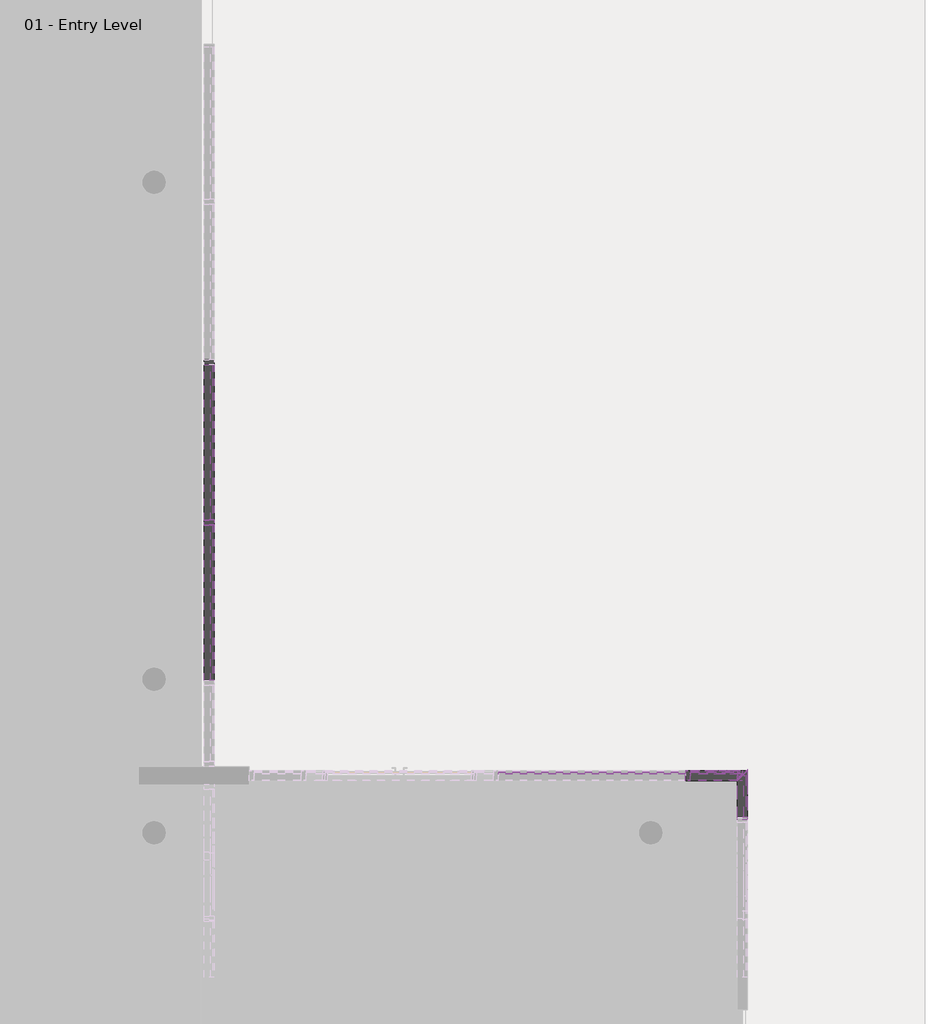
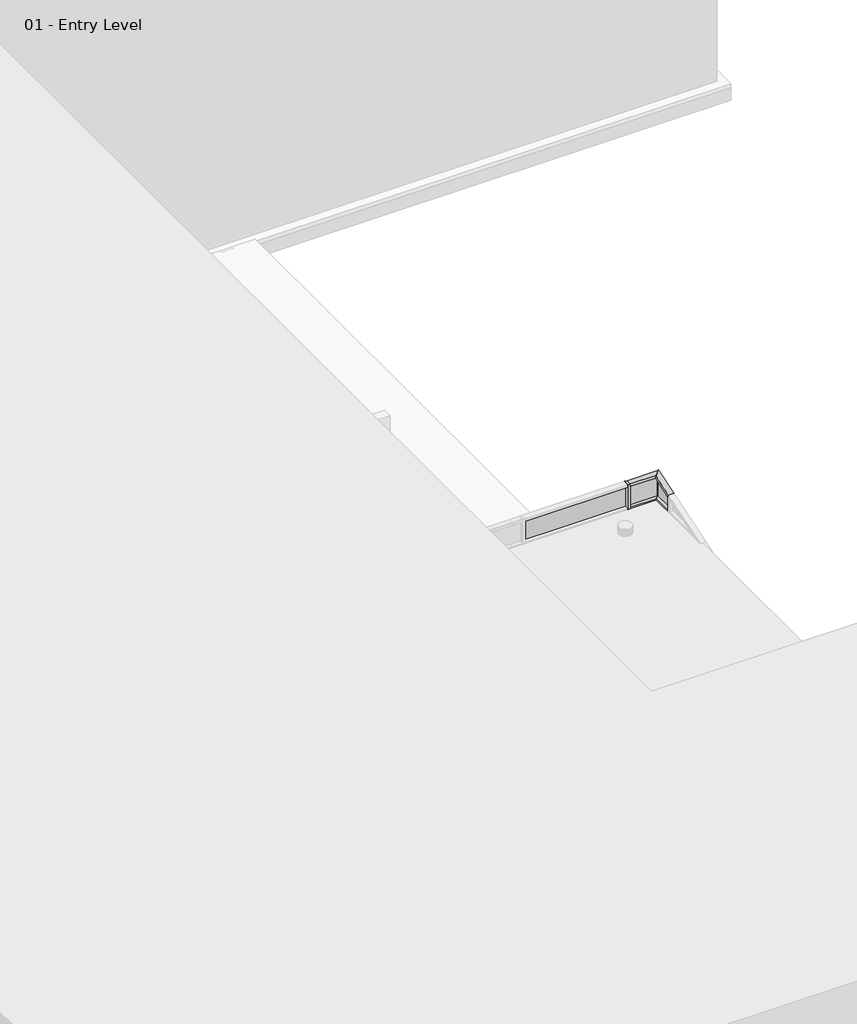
# One storey, part 17 of 35: 76 members, 50 plates.
"""IFC4 building model written with IfcOpenShell, lengths in millimetres."""

from ifc_helpers import new_model, si_unit, origin, place, context, project, spatial, transform, mapped, element, save
from components import member_2b49869a, member_391b434c, member_9e90ae50, member_6e77e263, member_b2bde9e6, member_b5354135, member_1e5b0a81, member_55448455, member_0dd9e943, member_29c8c3b8, member_f6b3c571, member_bb554449, member_5d67b9fc, member_3f1e2ae8, member_80bb9b3a, member_83c59054, system_panel_glazed_1b9d6098, system_panel_glazed_70da479d, system_panel_glazed_1068a10c, system_panel_glazed_a178916c, system_panel_glazed_ee7bb25c, system_panel_glazed_b5016a42, system_panel_glazed_300f1d59, system_panel_glazed_afefc162, system_panel_glazed_fbdf944e, system_panel_glazed_78103c7b

model = new_model("IFC4")

# Units and contexts
model_context = context("Model", 3, world=origin())
ifc_project = project(units=[si_unit("LENGTHUNIT", "METRE", prefix="MILLI")], contexts=[model_context])

# Site, building, storey
site = spatial("IfcSite", under=ifc_project)
building = spatial("IfcBuilding", under=site)
storey = spatial("IfcBuildingStorey", under=building, Name="01 - Entry Level", Elevation=0.0)

# Members
placement = place(None, origin())
member_shape = member_2b49869a(model_context)
element("IfcMember", 1, ObjectType="Rectangular Mullion : 2.5\" x 5\" rectangular", at=placement, inside=storey, context=model_context, shape_type="MappedRepresentation", body=[
    mapped(member_shape, transform((17184.0207476, 25752.35, 9753.6), x_axis=(0.0, 1.0, 0.0), y_axis=(1.0, 0.0, 0.0), z_axis=(0.0, 0.0, -1.0))),
])
member_2_shape = member_391b434c(model_context)
element("IfcMember", 2, ObjectType="Rectangular Mullion : 2.5\" x 5\" rectangular", at=placement, inside=storey, context=model_context, shape_type="MappedRepresentation", body=[
    mapped(member_2_shape, transform((17184.0207476, 25720.6, 10972.8), x_axis=(0.0, 0.0, 1.0), y_axis=(1.0, 0.0, 0.0), z_axis=(0.0, 1.0, 0.0))),
])
element("IfcMember", 3, ObjectType="Rectangular Mullion : 2.5\" x 5\" rectangular", at=placement, inside=storey, context=model_context, shape_type="MappedRepresentation", body=[
    mapped(member_2_shape, transform((17184.0207476, 27752.6, 10972.8), x_axis=(0.0, 0.0, 1.0), y_axis=(1.0, 0.0, 0.0), z_axis=(0.0, 1.0, 0.0))),
])
element("IfcMember", 4, ObjectType="Rectangular Mullion : 2.5\" x 5\" rectangular", at=placement, inside=storey, context=model_context, shape_type="MappedRepresentation", body=[
    mapped(member_2_shape, transform((17184.0207476, 25784.1, 0.0), x_axis=(0.0, 0.0, -1.0), y_axis=(1.0, 0.0, 0.0), z_axis=(0.0, -1.0, 0.0))),
])
element("IfcMember", 5, ObjectType="Rectangular Mullion : 2.5\" x 5\" rectangular", at=placement, inside=storey, context=model_context, shape_type="MappedRepresentation", body=[
    mapped(member_2_shape, transform((17184.0207476, 27816.1, 0.0), x_axis=(0.0, 0.0, -1.0), y_axis=(1.0, 0.0, 0.0), z_axis=(0.0, -1.0, 0.0))),
])
member_3_shape = member_9e90ae50(model_context)
element("IfcMember", 6, ObjectType="Rectangular Mullion : 2.5\" x 5\" rectangular", at=placement, inside=storey, context=model_context, shape_type="MappedRepresentation", body=[
    mapped(member_3_shape, transform((17184.0207476, 25720.6, 1219.2), x_axis=(0.0, 0.0, 1.0), y_axis=(1.0, 0.0, 0.0), z_axis=(0.0, 1.0, 0.0))),
])
element("IfcMember", 7, ObjectType="Rectangular Mullion : 2.5\" x 5\" rectangular", at=placement, inside=storey, context=model_context, shape_type="MappedRepresentation", body=[
    mapped(member_3_shape, transform((17184.0207476, 27752.6, 1219.2), x_axis=(0.0, 0.0, 1.0), y_axis=(1.0, 0.0, 0.0), z_axis=(0.0, 1.0, 0.0))),
])
element("IfcMember", 8, ObjectType="Rectangular Mullion : 2.5\" x 5\" rectangular", at=placement, inside=storey, context=model_context, shape_type="MappedRepresentation", body=[
    mapped(member_3_shape, transform((17184.0207476, 25720.6, 2438.4), x_axis=(0.0, 0.0, 1.0), y_axis=(1.0, 0.0, 0.0), z_axis=(0.0, 1.0, 0.0))),
])
element("IfcMember", 9, ObjectType="Rectangular Mullion : 2.5\" x 5\" rectangular", at=placement, inside=storey, context=model_context, shape_type="MappedRepresentation", body=[
    mapped(member_3_shape, transform((17184.0207476, 27752.6, 2438.4), x_axis=(0.0, 0.0, 1.0), y_axis=(1.0, 0.0, 0.0), z_axis=(0.0, 1.0, 0.0))),
])
element("IfcMember", 10, ObjectType="Rectangular Mullion : 2.5\" x 5\" rectangular", at=placement, inside=storey, context=model_context, shape_type="MappedRepresentation", body=[
    mapped(member_3_shape, transform((17184.0207476, 25720.6, 3657.6), x_axis=(0.0, 0.0, 1.0), y_axis=(1.0, 0.0, 0.0), z_axis=(0.0, 1.0, 0.0))),
])
element("IfcMember", 11, ObjectType="Rectangular Mullion : 2.5\" x 5\" rectangular", at=placement, inside=storey, context=model_context, shape_type="MappedRepresentation", body=[
    mapped(member_3_shape, transform((17184.0207476, 27752.6, 3657.6), x_axis=(0.0, 0.0, 1.0), y_axis=(1.0, 0.0, 0.0), z_axis=(0.0, 1.0, 0.0))),
])
element("IfcMember", 12, ObjectType="Rectangular Mullion : 2.5\" x 5\" rectangular", at=placement, inside=storey, context=model_context, shape_type="MappedRepresentation", body=[
    mapped(member_3_shape, transform((17184.0207476, 25720.6, 4876.8), x_axis=(0.0, 0.0, 1.0), y_axis=(1.0, 0.0, 0.0), z_axis=(0.0, 1.0, 0.0))),
])
element("IfcMember", 13, ObjectType="Rectangular Mullion : 2.5\" x 5\" rectangular", at=placement, inside=storey, context=model_context, shape_type="MappedRepresentation", body=[
    mapped(member_3_shape, transform((17184.0207476, 27752.6, 4876.8), x_axis=(0.0, 0.0, 1.0), y_axis=(1.0, 0.0, 0.0), z_axis=(0.0, 1.0, 0.0))),
])
element("IfcMember", 14, ObjectType="Rectangular Mullion : 2.5\" x 5\" rectangular", at=placement, inside=storey, context=model_context, shape_type="MappedRepresentation", body=[
    mapped(member_3_shape, transform((17184.0207476, 25720.6, 6096.0), x_axis=(0.0, 0.0, 1.0), y_axis=(1.0, 0.0, 0.0), z_axis=(0.0, 1.0, 0.0))),
])
element("IfcMember", 15, ObjectType="Rectangular Mullion : 2.5\" x 5\" rectangular", at=placement, inside=storey, context=model_context, shape_type="MappedRepresentation", body=[
    mapped(member_3_shape, transform((17184.0207476, 27752.6, 6096.0), x_axis=(0.0, 0.0, 1.0), y_axis=(1.0, 0.0, 0.0), z_axis=(0.0, 1.0, 0.0))),
])
element("IfcMember", 16, ObjectType="Rectangular Mullion : 2.5\" x 5\" rectangular", at=placement, inside=storey, context=model_context, shape_type="MappedRepresentation", body=[
    mapped(member_3_shape, transform((17184.0207476, 25720.6, 7315.2), x_axis=(0.0, 0.0, 1.0), y_axis=(1.0, 0.0, 0.0), z_axis=(0.0, 1.0, 0.0))),
])
element("IfcMember", 17, ObjectType="Rectangular Mullion : 2.5\" x 5\" rectangular", at=placement, inside=storey, context=model_context, shape_type="MappedRepresentation", body=[
    mapped(member_3_shape, transform((17184.0207476, 27752.6, 7315.2), x_axis=(0.0, 0.0, 1.0), y_axis=(1.0, 0.0, 0.0), z_axis=(0.0, 1.0, 0.0))),
])
element("IfcMember", 18, ObjectType="Rectangular Mullion : 2.5\" x 5\" rectangular", at=placement, inside=storey, context=model_context, shape_type="MappedRepresentation", body=[
    mapped(member_3_shape, transform((17184.0207476, 25720.6, 8534.4), x_axis=(0.0, 0.0, 1.0), y_axis=(1.0, 0.0, 0.0), z_axis=(0.0, 1.0, 0.0))),
])
element("IfcMember", 19, ObjectType="Rectangular Mullion : 2.5\" x 5\" rectangular", at=placement, inside=storey, context=model_context, shape_type="MappedRepresentation", body=[
    mapped(member_3_shape, transform((17184.0207476, 27752.6, 8534.4), x_axis=(0.0, 0.0, 1.0), y_axis=(1.0, 0.0, 0.0), z_axis=(0.0, 1.0, 0.0))),
])
element("IfcMember", 20, ObjectType="Rectangular Mullion : 2.5\" x 5\" rectangular", at=placement, inside=storey, context=model_context, shape_type="MappedRepresentation", body=[
    mapped(member_3_shape, transform((17184.0207476, 25720.6, 9753.6), x_axis=(0.0, 0.0, 1.0), y_axis=(1.0, 0.0, 0.0), z_axis=(0.0, 1.0, 0.0))),
])
element("IfcMember", 21, ObjectType="Rectangular Mullion : 2.5\" x 5\" rectangular", at=placement, inside=storey, context=model_context, shape_type="MappedRepresentation", body=[
    mapped(member_3_shape, transform((17184.0207476, 27752.6, 9753.6), x_axis=(0.0, 0.0, 1.0), y_axis=(1.0, 0.0, 0.0), z_axis=(0.0, 1.0, 0.0))),
])
element("IfcMember", 22, ObjectType="Rectangular Mullion : 2.5\" x 5\" rectangular", at=placement, inside=storey, context=model_context, shape_type="MappedRepresentation", body=[
    mapped(member_shape, transform((17184.0207476, 25752.35, 0.0), x_axis=(0.0, 1.0, 0.0), y_axis=(1.0, 0.0, 0.0), z_axis=(0.0, 0.0, -1.0))),
])
element("IfcMember", 23, ObjectType="Rectangular Mullion : 2.5\" x 5\" rectangular", at=placement, inside=storey, context=model_context, shape_type="MappedRepresentation", body=[
    mapped(member_shape, transform((17184.0207476, 27784.35, 0.0), x_axis=(0.0, 1.0, 0.0), y_axis=(1.0, 0.0, 0.0), z_axis=(0.0, 0.0, -1.0))),
])
element("IfcMember", 24, ObjectType="Rectangular Mullion : 2.5\" x 5\" rectangular", at=placement, inside=storey, context=model_context, shape_type="MappedRepresentation", body=[
    mapped(member_shape, transform((17184.0207476, 25752.35, 1219.2), x_axis=(0.0, 1.0, 0.0), y_axis=(1.0, 0.0, 0.0), z_axis=(0.0, 0.0, -1.0))),
])
element("IfcMember", 25, ObjectType="Rectangular Mullion : 2.5\" x 5\" rectangular", at=placement, inside=storey, context=model_context, shape_type="MappedRepresentation", body=[
    mapped(member_shape, transform((17184.0207476, 27784.35, 1219.2), x_axis=(0.0, 1.0, 0.0), y_axis=(1.0, 0.0, 0.0), z_axis=(0.0, 0.0, -1.0))),
])
element("IfcMember", 26, ObjectType="Rectangular Mullion : 2.5\" x 5\" rectangular", at=placement, inside=storey, context=model_context, shape_type="MappedRepresentation", body=[
    mapped(member_shape, transform((17184.0207476, 25752.35, 2438.4), x_axis=(0.0, 1.0, 0.0), y_axis=(1.0, 0.0, 0.0), z_axis=(0.0, 0.0, -1.0))),
])
element("IfcMember", 27, ObjectType="Rectangular Mullion : 2.5\" x 5\" rectangular", at=placement, inside=storey, context=model_context, shape_type="MappedRepresentation", body=[
    mapped(member_shape, transform((17184.0207476, 27784.35, 2438.4), x_axis=(0.0, 1.0, 0.0), y_axis=(1.0, 0.0, 0.0), z_axis=(0.0, 0.0, -1.0))),
])
element("IfcMember", 28, ObjectType="Rectangular Mullion : 2.5\" x 5\" rectangular", at=placement, inside=storey, context=model_context, shape_type="MappedRepresentation", body=[
    mapped(member_shape, transform((17184.0207476, 25752.35, 3657.6), x_axis=(0.0, 1.0, 0.0), y_axis=(1.0, 0.0, 0.0), z_axis=(0.0, 0.0, -1.0))),
])
element("IfcMember", 29, ObjectType="Rectangular Mullion : 2.5\" x 5\" rectangular", at=placement, inside=storey, context=model_context, shape_type="MappedRepresentation", body=[
    mapped(member_shape, transform((17184.0207476, 27784.35, 3657.6), x_axis=(0.0, 1.0, 0.0), y_axis=(1.0, 0.0, 0.0), z_axis=(0.0, 0.0, -1.0))),
])
element("IfcMember", 30, ObjectType="Rectangular Mullion : 2.5\" x 5\" rectangular", at=placement, inside=storey, context=model_context, shape_type="MappedRepresentation", body=[
    mapped(member_shape, transform((17184.0207476, 25752.35, 4876.8), x_axis=(0.0, 1.0, 0.0), y_axis=(1.0, 0.0, 0.0), z_axis=(0.0, 0.0, -1.0))),
])
element("IfcMember", 31, ObjectType="Rectangular Mullion : 2.5\" x 5\" rectangular", at=placement, inside=storey, context=model_context, shape_type="MappedRepresentation", body=[
    mapped(member_shape, transform((17184.0207476, 27784.35, 4876.8), x_axis=(0.0, 1.0, 0.0), y_axis=(1.0, 0.0, 0.0), z_axis=(0.0, 0.0, -1.0))),
])
element("IfcMember", 32, ObjectType="Rectangular Mullion : 2.5\" x 5\" rectangular", at=placement, inside=storey, context=model_context, shape_type="MappedRepresentation", body=[
    mapped(member_shape, transform((17184.0207476, 25752.35, 6096.0), x_axis=(0.0, 1.0, 0.0), y_axis=(1.0, 0.0, 0.0), z_axis=(0.0, 0.0, -1.0))),
])
element("IfcMember", 33, ObjectType="Rectangular Mullion : 2.5\" x 5\" rectangular", at=placement, inside=storey, context=model_context, shape_type="MappedRepresentation", body=[
    mapped(member_shape, transform((17184.0207476, 27784.35, 6096.0), x_axis=(0.0, 1.0, 0.0), y_axis=(1.0, 0.0, 0.0), z_axis=(0.0, 0.0, -1.0))),
])
element("IfcMember", 34, ObjectType="Rectangular Mullion : 2.5\" x 5\" rectangular", at=placement, inside=storey, context=model_context, shape_type="MappedRepresentation", body=[
    mapped(member_shape, transform((17184.0207476, 25752.35, 7315.2), x_axis=(0.0, 1.0, 0.0), y_axis=(1.0, 0.0, 0.0), z_axis=(0.0, 0.0, -1.0))),
])
element("IfcMember", 35, ObjectType="Rectangular Mullion : 2.5\" x 5\" rectangular", at=placement, inside=storey, context=model_context, shape_type="MappedRepresentation", body=[
    mapped(member_shape, transform((17184.0207476, 25752.35, 8534.4), x_axis=(0.0, 1.0, 0.0), y_axis=(1.0, 0.0, 0.0), z_axis=(0.0, 0.0, -1.0))),
])
member_4_shape = member_6e77e263(model_context)
element("IfcMember", 36, ObjectType="Rectangular Mullion : 2.5\" x 5\" rectangular", at=placement, inside=storey, context=model_context, shape_type="MappedRepresentation", body=[
    mapped(member_4_shape, transform((23256.3615197, 22545.6, 0.0), x_axis=(-1.0, 0.0, 0.0), y_axis=(0.0, 1.0, 0.0), z_axis=(0.0, 0.0, -1.0))),
])
element("IfcMember", 37, ObjectType="Rectangular Mullion : 2.5\" x 5\" rectangular", at=placement, inside=storey, context=model_context, shape_type="MappedRepresentation", body=[
    mapped(member_4_shape, transform((23256.3615197, 22545.6, 609.6), x_axis=(-1.0, 0.0, 0.0), y_axis=(0.0, 1.0, 0.0), z_axis=(0.0, 0.0, -1.0))),
])
element("IfcMember", 38, ObjectType="Rectangular Mullion : 2.5\" x 5\" rectangular", at=placement, inside=storey, context=model_context, shape_type="MappedRepresentation", body=[
    mapped(member_4_shape, transform((23256.3615197, 22545.6, 1219.2), x_axis=(-1.0, 0.0, 0.0), y_axis=(0.0, 1.0, 0.0), z_axis=(0.0, 0.0, -1.0))),
])
element("IfcMember", 39, ObjectType="Rectangular Mullion : 2.5\" x 5\" rectangular", at=placement, inside=storey, context=model_context, shape_type="MappedRepresentation", body=[
    mapped(member_4_shape, transform((23256.3615197, 22545.6, 2438.4), x_axis=(-1.0, 0.0, 0.0), y_axis=(0.0, 1.0, 0.0), z_axis=(0.0, 0.0, -1.0))),
])
element("IfcMember", 40, ObjectType="Rectangular Mullion : 2.5\" x 5\" rectangular", at=placement, inside=storey, context=model_context, shape_type="MappedRepresentation", body=[
    mapped(member_4_shape, transform((23256.3615197, 22545.6, 3048.0), x_axis=(-1.0, 0.0, 0.0), y_axis=(0.0, 1.0, 0.0), z_axis=(0.0, 0.0, -1.0))),
])
element("IfcMember", 41, ObjectType="Rectangular Mullion : 2.5\" x 5\" rectangular", at=placement, inside=storey, context=model_context, shape_type="MappedRepresentation", body=[
    mapped(member_4_shape, transform((23256.3615197, 22545.6, 3657.6), x_axis=(-1.0, 0.0, 0.0), y_axis=(0.0, 1.0, 0.0), z_axis=(0.0, 0.0, -1.0))),
])
element("IfcMember", 42, ObjectType="Rectangular Mullion : 2.5\" x 5\" rectangular", at=placement, inside=storey, context=model_context, shape_type="MappedRepresentation", body=[
    mapped(member_4_shape, transform((23256.3615197, 22545.6, 4267.2), x_axis=(-1.0, 0.0, 0.0), y_axis=(0.0, 1.0, 0.0), z_axis=(0.0, 0.0, -1.0))),
])
element("IfcMember", 43, ObjectType="Rectangular Mullion : 2.5\" x 5\" rectangular", at=placement, inside=storey, context=model_context, shape_type="MappedRepresentation", body=[
    mapped(member_4_shape, transform((23256.3615197, 22545.6, 4876.8), x_axis=(-1.0, 0.0, 0.0), y_axis=(0.0, 1.0, 0.0), z_axis=(0.0, 0.0, -1.0))),
])
element("IfcMember", 44, ObjectType="Rectangular Mullion : 2.5\" x 5\" rectangular", at=placement, inside=storey, context=model_context, shape_type="MappedRepresentation", body=[
    mapped(member_4_shape, transform((23256.3615197, 22545.6, 5486.4), x_axis=(-1.0, 0.0, 0.0), y_axis=(0.0, 1.0, 0.0), z_axis=(0.0, 0.0, -1.0))),
])
element("IfcMember", 45, ObjectType="Rectangular Mullion : 2.5\" x 5\" rectangular", at=placement, inside=storey, context=model_context, shape_type="MappedRepresentation", body=[
    mapped(member_4_shape, transform((23256.3615197, 22545.6, 6096.0), x_axis=(-1.0, 0.0, 0.0), y_axis=(0.0, 1.0, 0.0), z_axis=(0.0, 0.0, -1.0))),
])
member_5_shape = member_b2bde9e6(model_context)
element("IfcMember", 46, ObjectType="Rectangular Mullion : 2.5\" x 5\" rectangular", at=placement, inside=storey, context=model_context, shape_type="MappedRepresentation", body=[
    mapped(member_5_shape, transform((23224.6115197, 22545.6, 0.0), x_axis=(0.0, 0.0, -1.0), y_axis=(0.0, 1.0, 0.0), z_axis=(1.0, 0.0, 0.0))),
])
member_6_shape = member_b5354135(model_context)
element("IfcMember", 47, ObjectType="Rectangular Mullion : 2.5\" x 5\" rectangular", at=placement, inside=storey, context=model_context, shape_type="MappedRepresentation", body=[
    mapped(member_6_shape, transform((23288.1115197, 22545.6, 1828.8), x_axis=(0.0, 0.0, 1.0), y_axis=(0.0, 1.0, 0.0), z_axis=(-1.0, 0.0, 0.0))),
])
element("IfcMember", 48, ObjectType="Rectangular Mullion : 2.5\" x 5\" rectangular", at=placement, inside=storey, context=model_context, shape_type="MappedRepresentation", body=[
    mapped(member_4_shape, transform((23256.3615197, 22545.6, 6705.6), x_axis=(-1.0, 0.0, 0.0), y_axis=(0.0, 1.0, 0.0), z_axis=(0.0, 0.0, -1.0))),
])
member_7_shape = member_1e5b0a81(model_context)
element("IfcMember", 49, ObjectType="Rectangular Mullion : 2.5\" x 5\" rectangular", at=placement, inside=storey, context=model_context, shape_type="MappedRepresentation", body=[
    mapped(member_7_shape, transform((23947.0115197, 22545.6, 0.0), x_axis=(0.0, 0.0, -1.0), y_axis=(0.0, 1.0, 0.0), z_axis=(1.0, 0.0, 0.0))),
])
member_8_shape = member_55448455(model_context)
element("IfcMember", 50, ObjectType="Rectangular Mullion : 2.5\" x 5\" rectangular", at=placement, inside=storey, context=model_context, shape_type="MappedRepresentation", body=[
    mapped(member_8_shape, transform((23947.0115197, 22018.55, 0.0), x_axis=(0.0, 0.0, -1.0), y_axis=(1.0, 0.0, 0.0), z_axis=(0.0, -1.0, 0.0))),
])
member_9_shape = member_0dd9e943(model_context)
element("IfcMember", 51, ObjectType="Rectangular Mullion : 2.5\" x 5\" rectangular", at=placement, inside=storey, context=model_context, shape_type="MappedRepresentation", body=[
    mapped(member_9_shape, transform((23288.1115197, 22545.6, 7315.2), x_axis=(0.0, 0.0, 1.0), y_axis=(0.0, 1.0, 0.0), z_axis=(-1.0, 0.0, 0.0))),
])
member_10_shape = member_29c8c3b8(model_context)
element("IfcMember", 52, ObjectType="Rectangular Mullion : 2.5\" x 5\" rectangular", at=placement, inside=storey, context=model_context, shape_type="MappedRepresentation", body=[
    mapped(member_10_shape, transform((23947.0115197, 22545.6, 7315.2), x_axis=(0.0, -0.31622776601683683, 0.9486832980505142), y_axis=(1.0, 0.0, 0.0), z_axis=(0.0, 0.9486832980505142, 0.31622776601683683))),
])
member_11_shape = member_f6b3c571(model_context)
element("IfcMember", 53, ObjectType="Rectangular Mullion : 2.5\" x 5\" rectangular", at=placement, inside=storey, context=model_context, shape_type="MappedRepresentation", body=[
    mapped(member_11_shape, transform((23288.1115197, 22545.6, 609.6), x_axis=(0.0, 0.0, 1.0), y_axis=(0.0, 1.0, 0.0), z_axis=(-1.0, 0.0, 0.0))),
])
element("IfcMember", 54, ObjectType="Rectangular Mullion : 2.5\" x 5\" rectangular", at=placement, inside=storey, context=model_context, shape_type="MappedRepresentation", body=[
    mapped(member_11_shape, transform((23288.1115197, 22545.6, 1219.2), x_axis=(0.0, 0.0, 1.0), y_axis=(0.0, 1.0, 0.0), z_axis=(-1.0, 0.0, 0.0))),
])
element("IfcMember", 55, ObjectType="Rectangular Mullion : 2.5\" x 5\" rectangular", at=placement, inside=storey, context=model_context, shape_type="MappedRepresentation", body=[
    mapped(member_11_shape, transform((23288.1115197, 22545.6, 2438.4), x_axis=(0.0, 0.0, 1.0), y_axis=(0.0, 1.0, 0.0), z_axis=(-1.0, 0.0, 0.0))),
])
element("IfcMember", 56, ObjectType="Rectangular Mullion : 2.5\" x 5\" rectangular", at=placement, inside=storey, context=model_context, shape_type="MappedRepresentation", body=[
    mapped(member_11_shape, transform((23288.1115197, 22545.6, 3048.0), x_axis=(0.0, 0.0, 1.0), y_axis=(0.0, 1.0, 0.0), z_axis=(-1.0, 0.0, 0.0))),
])
element("IfcMember", 57, ObjectType="Rectangular Mullion : 2.5\" x 5\" rectangular", at=placement, inside=storey, context=model_context, shape_type="MappedRepresentation", body=[
    mapped(member_11_shape, transform((23288.1115197, 22545.6, 3657.6), x_axis=(0.0, 0.0, 1.0), y_axis=(0.0, 1.0, 0.0), z_axis=(-1.0, 0.0, 0.0))),
])
element("IfcMember", 58, ObjectType="Rectangular Mullion : 2.5\" x 5\" rectangular", at=placement, inside=storey, context=model_context, shape_type="MappedRepresentation", body=[
    mapped(member_11_shape, transform((23288.1115197, 22545.6, 4267.2), x_axis=(0.0, 0.0, 1.0), y_axis=(0.0, 1.0, 0.0), z_axis=(-1.0, 0.0, 0.0))),
])
element("IfcMember", 59, ObjectType="Rectangular Mullion : 2.5\" x 5\" rectangular", at=placement, inside=storey, context=model_context, shape_type="MappedRepresentation", body=[
    mapped(member_11_shape, transform((23288.1115197, 22545.6, 4876.8), x_axis=(0.0, 0.0, 1.0), y_axis=(0.0, 1.0, 0.0), z_axis=(-1.0, 0.0, 0.0))),
])
element("IfcMember", 60, ObjectType="Rectangular Mullion : 2.5\" x 5\" rectangular", at=placement, inside=storey, context=model_context, shape_type="MappedRepresentation", body=[
    mapped(member_11_shape, transform((23288.1115197, 22545.6, 5486.4), x_axis=(0.0, 0.0, 1.0), y_axis=(0.0, 1.0, 0.0), z_axis=(-1.0, 0.0, 0.0))),
])
element("IfcMember", 61, ObjectType="Rectangular Mullion : 2.5\" x 5\" rectangular", at=placement, inside=storey, context=model_context, shape_type="MappedRepresentation", body=[
    mapped(member_11_shape, transform((23288.1115197, 22545.6, 6096.0), x_axis=(0.0, 0.0, 1.0), y_axis=(0.0, 1.0, 0.0), z_axis=(-1.0, 0.0, 0.0))),
])
element("IfcMember", 62, ObjectType="Rectangular Mullion : 2.5\" x 5\" rectangular", at=placement, inside=storey, context=model_context, shape_type="MappedRepresentation", body=[
    mapped(member_11_shape, transform((23288.1115197, 22545.6, 6705.6), x_axis=(0.0, 0.0, 1.0), y_axis=(0.0, 1.0, 0.0), z_axis=(-1.0, 0.0, 0.0))),
])
member_12_shape = member_bb554449(model_context)
element("IfcMember", 63, ObjectType="Rectangular Mullion : 2.5\" x 5\" rectangular", at=placement, inside=storey, context=model_context, shape_type="MappedRepresentation", body=[
    mapped(member_12_shape, transform((23947.0115197, 22545.6, 609.6), x_axis=(0.0, 0.0, 1.0), y_axis=(1.0, 0.0, 0.0), z_axis=(0.0, 1.0, 0.0))),
])
element("IfcMember", 64, ObjectType="Rectangular Mullion : 2.5\" x 5\" rectangular", at=placement, inside=storey, context=model_context, shape_type="MappedRepresentation", body=[
    mapped(member_12_shape, transform((23947.0115197, 22545.6, 1219.2), x_axis=(0.0, 0.0, 1.0), y_axis=(1.0, 0.0, 0.0), z_axis=(0.0, 1.0, 0.0))),
])
element("IfcMember", 65, ObjectType="Rectangular Mullion : 2.5\" x 5\" rectangular", at=placement, inside=storey, context=model_context, shape_type="MappedRepresentation", body=[
    mapped(member_12_shape, transform((23947.0115197, 22545.6, 3048.0), x_axis=(0.0, 0.0, 1.0), y_axis=(1.0, 0.0, 0.0), z_axis=(0.0, 1.0, 0.0))),
])
element("IfcMember", 66, ObjectType="Rectangular Mullion : 2.5\" x 5\" rectangular", at=placement, inside=storey, context=model_context, shape_type="MappedRepresentation", body=[
    mapped(member_12_shape, transform((23947.0115197, 22545.6, 3657.6), x_axis=(0.0, 0.0, 1.0), y_axis=(1.0, 0.0, 0.0), z_axis=(0.0, 1.0, 0.0))),
])
element("IfcMember", 67, ObjectType="Rectangular Mullion : 2.5\" x 5\" rectangular", at=placement, inside=storey, context=model_context, shape_type="MappedRepresentation", body=[
    mapped(member_12_shape, transform((23947.0115197, 22545.6, 4267.2), x_axis=(0.0, 0.0, 1.0), y_axis=(1.0, 0.0, 0.0), z_axis=(0.0, 1.0, 0.0))),
])
element("IfcMember", 68, ObjectType="Rectangular Mullion : 2.5\" x 5\" rectangular", at=placement, inside=storey, context=model_context, shape_type="MappedRepresentation", body=[
    mapped(member_12_shape, transform((23947.0115197, 22545.6, 4876.8), x_axis=(0.0, 0.0, 1.0), y_axis=(1.0, 0.0, 0.0), z_axis=(0.0, 1.0, 0.0))),
])
element("IfcMember", 69, ObjectType="Rectangular Mullion : 2.5\" x 5\" rectangular", at=placement, inside=storey, context=model_context, shape_type="MappedRepresentation", body=[
    mapped(member_12_shape, transform((23947.0115197, 22545.6, 5486.4), x_axis=(0.0, 0.0, 1.0), y_axis=(1.0, 0.0, 0.0), z_axis=(0.0, 1.0, 0.0))),
])
element("IfcMember", 70, ObjectType="Rectangular Mullion : 2.5\" x 5\" rectangular", at=placement, inside=storey, context=model_context, shape_type="MappedRepresentation", body=[
    mapped(member_12_shape, transform((23947.0115197, 22545.6, 6096.0), x_axis=(0.0, 0.0, 1.0), y_axis=(1.0, 0.0, 0.0), z_axis=(0.0, 1.0, 0.0))),
])
element("IfcMember", 71, ObjectType="Rectangular Mullion : 2.5\" x 5\" rectangular", at=placement, inside=storey, context=model_context, shape_type="MappedRepresentation", body=[
    mapped(member_12_shape, transform((23947.0115197, 22545.6, 6705.6), x_axis=(0.0, 0.0, 1.0), y_axis=(1.0, 0.0, 0.0), z_axis=(0.0, 1.0, 0.0))),
])
member_13_shape = member_5d67b9fc(model_context)
element("IfcMember", 72, ObjectType="Rectangular Mullion : 2.5\" x 5\" rectangular", at=placement, inside=storey, context=model_context, shape_type="MappedRepresentation", body=[
    mapped(member_13_shape, transform((23256.3615197, 22545.6, 2165.35), x_axis=(-1.0, 0.0, 0.0), y_axis=(0.0, 1.0, 0.0), z_axis=(0.0, 0.0, -1.0))),
])
member_14_shape = member_3f1e2ae8(model_context)
element("IfcMember", 73, ObjectType="Rectangular Mullion : 2.5\" x 5\" rectangular", at=placement, inside=storey, context=model_context, shape_type="MappedRepresentation", body=[
    mapped(member_14_shape, transform((23947.0115197, 22545.6, 1828.8), x_axis=(0.0, 0.0, 1.0), y_axis=(1.0, 0.0, 0.0), z_axis=(0.0, 1.0, 0.0))),
])
element("IfcMember", 74, ObjectType="Rectangular Mullion : 2.5\" x 5\" rectangular", at=placement, inside=storey, context=model_context, shape_type="MappedRepresentation", body=[
    mapped(member_14_shape, transform((23947.0115197, 22545.6, 2438.4), x_axis=(0.0, 0.0, 1.0), y_axis=(1.0, 0.0, 0.0), z_axis=(0.0, 1.0, 0.0))),
])
member_15_shape = member_80bb9b3a(model_context)
element("IfcMember", 75, ObjectType="Rectangular Mullion : 2.5\" x 5\" rectangular", at=placement, inside=storey, context=model_context, shape_type="MappedRepresentation", body=[
    mapped(member_15_shape, transform((23256.3615197, 22545.6, 1828.8), x_axis=(-1.0, 0.0, 0.0), y_axis=(0.0, 1.0, 0.0), z_axis=(0.0, 0.0, -1.0))),
])
member_16_shape = member_83c59054(model_context)
element("IfcMember", 76, ObjectType="Rectangular Mullion : 2.5\" x 5\" rectangular", at=placement, inside=storey, context=model_context, shape_type="MappedRepresentation", body=[
    mapped(member_16_shape, transform((23947.0115197, 22545.6, 2165.35), x_axis=(1.0, 0.0, 0.0), y_axis=(0.0, 1.0, 0.0), z_axis=(0.0, 0.0, 1.0))),
])

# Plates
system_panel_glazed_shape = system_panel_glazed_1b9d6098(model_context)
element("IfcPlate", 77, ObjectType="System Panel : Glazed", at=placement, inside=storey, context=model_context, shape_type="MappedRepresentation", body=[
    mapped(system_panel_glazed_shape, transform((17184.0207476, 24736.35, 63.5), x_axis=(0.0, 1.0, 0.0), y_axis=(-1.0, 0.0, 0.0), z_axis=(0.0, 0.0, 1.0))),
])
element("IfcPlate", 78, ObjectType="System Panel : Glazed", at=placement, inside=storey, context=model_context, shape_type="MappedRepresentation", body=[
    mapped(system_panel_glazed_shape, transform((17184.0207476, 26768.35, 63.5), x_axis=(0.0, 1.0, 0.0), y_axis=(-1.0, 0.0, 0.0), z_axis=(0.0, 0.0, 1.0))),
])
element("IfcPlate", 79, ObjectType="System Panel : Glazed", at=placement, inside=storey, context=model_context, shape_type="MappedRepresentation", body=[
    mapped(system_panel_glazed_shape, transform((17184.0207476, 24736.35, 9785.35), x_axis=(0.0, 1.0, 0.0), y_axis=(-1.0, 0.0, 0.0), z_axis=(0.0, 0.0, 1.0))),
])
element("IfcPlate", 80, ObjectType="System Panel : Glazed", at=placement, inside=storey, context=model_context, shape_type="MappedRepresentation", body=[
    mapped(system_panel_glazed_shape, transform((17184.0207476, 26768.35, 9785.35), x_axis=(0.0, 1.0, 0.0), y_axis=(-1.0, 0.0, 0.0), z_axis=(0.0, 0.0, 1.0))),
])
system_panel_glazed_2_shape = system_panel_glazed_70da479d(model_context)
element("IfcPlate", 81, ObjectType="System Panel : Glazed", at=placement, inside=storey, context=model_context, shape_type="MappedRepresentation", body=[
    mapped(system_panel_glazed_2_shape, transform((17184.0207476, 24736.35, 1250.95), x_axis=(0.0, 1.0, 0.0), y_axis=(-1.0, 0.0, 0.0), z_axis=(0.0, 0.0, 1.0))),
])
element("IfcPlate", 82, ObjectType="System Panel : Glazed", at=placement, inside=storey, context=model_context, shape_type="MappedRepresentation", body=[
    mapped(system_panel_glazed_2_shape, transform((17184.0207476, 26768.35, 1250.95), x_axis=(0.0, 1.0, 0.0), y_axis=(-1.0, 0.0, 0.0), z_axis=(0.0, 0.0, 1.0))),
])
element("IfcPlate", 83, ObjectType="System Panel : Glazed", at=placement, inside=storey, context=model_context, shape_type="MappedRepresentation", body=[
    mapped(system_panel_glazed_2_shape, transform((17184.0207476, 24736.35, 2470.15), x_axis=(0.0, 1.0, 0.0), y_axis=(-1.0, 0.0, 0.0), z_axis=(0.0, 0.0, 1.0))),
])
element("IfcPlate", 84, ObjectType="System Panel : Glazed", at=placement, inside=storey, context=model_context, shape_type="MappedRepresentation", body=[
    mapped(system_panel_glazed_2_shape, transform((17184.0207476, 26768.35, 2470.15), x_axis=(0.0, 1.0, 0.0), y_axis=(-1.0, 0.0, 0.0), z_axis=(0.0, 0.0, 1.0))),
])
element("IfcPlate", 85, ObjectType="System Panel : Glazed", at=placement, inside=storey, context=model_context, shape_type="MappedRepresentation", body=[
    mapped(system_panel_glazed_2_shape, transform((17184.0207476, 24736.35, 3689.35), x_axis=(0.0, 1.0, 0.0), y_axis=(-1.0, 0.0, 0.0), z_axis=(0.0, 0.0, 1.0))),
])
element("IfcPlate", 86, ObjectType="System Panel : Glazed", at=placement, inside=storey, context=model_context, shape_type="MappedRepresentation", body=[
    mapped(system_panel_glazed_2_shape, transform((17184.0207476, 26768.35, 3689.35), x_axis=(0.0, 1.0, 0.0), y_axis=(-1.0, 0.0, 0.0), z_axis=(0.0, 0.0, 1.0))),
])
element("IfcPlate", 87, ObjectType="System Panel : Glazed", at=placement, inside=storey, context=model_context, shape_type="MappedRepresentation", body=[
    mapped(system_panel_glazed_2_shape, transform((17184.0207476, 24736.35, 4908.55), x_axis=(0.0, 1.0, 0.0), y_axis=(-1.0, 0.0, 0.0), z_axis=(0.0, 0.0, 1.0))),
])
element("IfcPlate", 88, ObjectType="System Panel : Glazed", at=placement, inside=storey, context=model_context, shape_type="MappedRepresentation", body=[
    mapped(system_panel_glazed_2_shape, transform((17184.0207476, 26768.35, 4908.55), x_axis=(0.0, 1.0, 0.0), y_axis=(-1.0, 0.0, 0.0), z_axis=(0.0, 0.0, 1.0))),
])
element("IfcPlate", 89, ObjectType="System Panel : Glazed", at=placement, inside=storey, context=model_context, shape_type="MappedRepresentation", body=[
    mapped(system_panel_glazed_2_shape, transform((17184.0207476, 24736.35, 6127.75), x_axis=(0.0, 1.0, 0.0), y_axis=(-1.0, 0.0, 0.0), z_axis=(0.0, 0.0, 1.0))),
])
element("IfcPlate", 90, ObjectType="System Panel : Glazed", at=placement, inside=storey, context=model_context, shape_type="MappedRepresentation", body=[
    mapped(system_panel_glazed_2_shape, transform((17184.0207476, 26768.35, 6127.75), x_axis=(0.0, 1.0, 0.0), y_axis=(-1.0, 0.0, 0.0), z_axis=(0.0, 0.0, 1.0))),
])
element("IfcPlate", 91, ObjectType="System Panel : Glazed", at=placement, inside=storey, context=model_context, shape_type="MappedRepresentation", body=[
    mapped(system_panel_glazed_2_shape, transform((17184.0207476, 24736.35, 7346.95), x_axis=(0.0, 1.0, 0.0), y_axis=(-1.0, 0.0, 0.0), z_axis=(0.0, 0.0, 1.0))),
])
element("IfcPlate", 92, ObjectType="System Panel : Glazed", at=placement, inside=storey, context=model_context, shape_type="MappedRepresentation", body=[
    mapped(system_panel_glazed_2_shape, transform((17184.0207476, 26768.35, 7346.95), x_axis=(0.0, 1.0, 0.0), y_axis=(-1.0, 0.0, 0.0), z_axis=(0.0, 0.0, 1.0))),
])
element("IfcPlate", 93, ObjectType="System Panel : Glazed", at=placement, inside=storey, context=model_context, shape_type="MappedRepresentation", body=[
    mapped(system_panel_glazed_2_shape, transform((17184.0207476, 24736.35, 8566.15), x_axis=(0.0, 1.0, 0.0), y_axis=(-1.0, 0.0, 0.0), z_axis=(0.0, 0.0, 1.0))),
])
element("IfcPlate", 94, ObjectType="System Panel : Glazed", at=placement, inside=storey, context=model_context, shape_type="MappedRepresentation", body=[
    mapped(system_panel_glazed_2_shape, transform((17184.0207476, 26768.35, 8566.15), x_axis=(0.0, 1.0, 0.0), y_axis=(-1.0, 0.0, 0.0), z_axis=(0.0, 0.0, 1.0))),
])
system_panel_glazed_3_shape = system_panel_glazed_1068a10c(model_context)
element("IfcPlate", 95, ObjectType="System Panel : Glazed", at=placement, inside=storey, context=model_context, shape_type="MappedRepresentation", body=[
    mapped(system_panel_glazed_3_shape, transform((22037.1615197, 22545.6, 6737.35), x_axis=(-1.0, 0.0, 0.0), y_axis=(0.0, -1.0, 0.0), z_axis=(0.0, 0.0, 1.0))),
])
system_panel_glazed_4_shape = system_panel_glazed_a178916c(model_context)
element("IfcPlate", 96, ObjectType="System Panel : Glazed", at=placement, inside=storey, context=model_context, shape_type="MappedRepresentation", body=[
    mapped(system_panel_glazed_4_shape, transform((22037.1615197, 22545.6, 2470.15), x_axis=(-1.0, 0.0, 0.0), y_axis=(0.0, -1.0, 0.0), z_axis=(0.0, 0.0, 1.0))),
])
element("IfcPlate", 97, ObjectType="System Panel : Glazed", at=placement, inside=storey, context=model_context, shape_type="MappedRepresentation", body=[
    mapped(system_panel_glazed_4_shape, transform((22037.1615197, 22545.6, 3079.75), x_axis=(-1.0, 0.0, 0.0), y_axis=(0.0, -1.0, 0.0), z_axis=(0.0, 0.0, 1.0))),
])
element("IfcPlate", 98, ObjectType="System Panel : Glazed", at=placement, inside=storey, context=model_context, shape_type="MappedRepresentation", body=[
    mapped(system_panel_glazed_4_shape, transform((22037.1615197, 22545.6, 3689.35), x_axis=(-1.0, 0.0, 0.0), y_axis=(0.0, -1.0, 0.0), z_axis=(0.0, 0.0, 1.0))),
])
element("IfcPlate", 99, ObjectType="System Panel : Glazed", at=placement, inside=storey, context=model_context, shape_type="MappedRepresentation", body=[
    mapped(system_panel_glazed_4_shape, transform((22037.1615197, 22545.6, 4298.95), x_axis=(-1.0, 0.0, 0.0), y_axis=(0.0, -1.0, 0.0), z_axis=(0.0, 0.0, 1.0))),
])
element("IfcPlate", 100, ObjectType="System Panel : Glazed", at=placement, inside=storey, context=model_context, shape_type="MappedRepresentation", body=[
    mapped(system_panel_glazed_4_shape, transform((22037.1615197, 22545.6, 4908.55), x_axis=(-1.0, 0.0, 0.0), y_axis=(0.0, -1.0, 0.0), z_axis=(0.0, 0.0, 1.0))),
])
element("IfcPlate", 101, ObjectType="System Panel : Glazed", at=placement, inside=storey, context=model_context, shape_type="MappedRepresentation", body=[
    mapped(system_panel_glazed_4_shape, transform((22037.1615197, 22545.6, 5518.15), x_axis=(-1.0, 0.0, 0.0), y_axis=(0.0, -1.0, 0.0), z_axis=(0.0, 0.0, 1.0))),
])
element("IfcPlate", 102, ObjectType="System Panel : Glazed", at=placement, inside=storey, context=model_context, shape_type="MappedRepresentation", body=[
    mapped(system_panel_glazed_4_shape, transform((22037.1615197, 22545.6, 6127.75), x_axis=(-1.0, 0.0, 0.0), y_axis=(0.0, -1.0, 0.0), z_axis=(0.0, 0.0, 1.0))),
])
system_panel_glazed_5_shape = system_panel_glazed_ee7bb25c(model_context)
element("IfcPlate", 103, ObjectType="System Panel : Glazed", at=placement, inside=storey, context=model_context, shape_type="MappedRepresentation", body=[
    mapped(system_panel_glazed_5_shape, transform((23617.5615197, 22545.6, 63.5), x_axis=(-1.0, 0.0, 0.0), y_axis=(0.0, -1.0, 0.0), z_axis=(0.0, 0.0, 1.0))),
])
element("IfcPlate", 104, ObjectType="System Panel : Glazed", at=placement, inside=storey, context=model_context, shape_type="MappedRepresentation", body=[
    mapped(system_panel_glazed_5_shape, transform((23617.5615197, 22545.6, 6737.35), x_axis=(-1.0, 0.0, 0.0), y_axis=(0.0, -1.0, 0.0), z_axis=(0.0, 0.0, 1.0))),
])
system_panel_glazed_6_shape = system_panel_glazed_b5016a42(model_context)
element("IfcPlate", 105, ObjectType="System Panel : Glazed", at=placement, inside=storey, context=model_context, shape_type="MappedRepresentation", body=[
    mapped(system_panel_glazed_6_shape, transform((23617.5615197, 22545.6, 641.35), x_axis=(-1.0, 0.0, 0.0), y_axis=(0.0, -1.0, 0.0), z_axis=(0.0, 0.0, 1.0))),
])
element("IfcPlate", 106, ObjectType="System Panel : Glazed", at=placement, inside=storey, context=model_context, shape_type="MappedRepresentation", body=[
    mapped(system_panel_glazed_6_shape, transform((23617.5615197, 22545.6, 1250.95), x_axis=(-1.0, 0.0, 0.0), y_axis=(0.0, -1.0, 0.0), z_axis=(0.0, 0.0, 1.0))),
])
element("IfcPlate", 107, ObjectType="System Panel : Glazed", at=placement, inside=storey, context=model_context, shape_type="MappedRepresentation", body=[
    mapped(system_panel_glazed_6_shape, transform((23617.5615197, 22545.6, 2470.15), x_axis=(-1.0, 0.0, 0.0), y_axis=(0.0, -1.0, 0.0), z_axis=(0.0, 0.0, 1.0))),
])
element("IfcPlate", 108, ObjectType="System Panel : Glazed", at=placement, inside=storey, context=model_context, shape_type="MappedRepresentation", body=[
    mapped(system_panel_glazed_6_shape, transform((23617.5615197, 22545.6, 3079.75), x_axis=(-1.0, 0.0, 0.0), y_axis=(0.0, -1.0, 0.0), z_axis=(0.0, 0.0, 1.0))),
])
element("IfcPlate", 109, ObjectType="System Panel : Glazed", at=placement, inside=storey, context=model_context, shape_type="MappedRepresentation", body=[
    mapped(system_panel_glazed_6_shape, transform((23617.5615197, 22545.6, 3689.35), x_axis=(-1.0, 0.0, 0.0), y_axis=(0.0, -1.0, 0.0), z_axis=(0.0, 0.0, 1.0))),
])
element("IfcPlate", 110, ObjectType="System Panel : Glazed", at=placement, inside=storey, context=model_context, shape_type="MappedRepresentation", body=[
    mapped(system_panel_glazed_6_shape, transform((23617.5615197, 22545.6, 4298.95), x_axis=(-1.0, 0.0, 0.0), y_axis=(0.0, -1.0, 0.0), z_axis=(0.0, 0.0, 1.0))),
])
element("IfcPlate", 111, ObjectType="System Panel : Glazed", at=placement, inside=storey, context=model_context, shape_type="MappedRepresentation", body=[
    mapped(system_panel_glazed_6_shape, transform((23617.5615197, 22545.6, 4908.55), x_axis=(-1.0, 0.0, 0.0), y_axis=(0.0, -1.0, 0.0), z_axis=(0.0, 0.0, 1.0))),
])
element("IfcPlate", 112, ObjectType="System Panel : Glazed", at=placement, inside=storey, context=model_context, shape_type="MappedRepresentation", body=[
    mapped(system_panel_glazed_6_shape, transform((23617.5615197, 22545.6, 5518.15), x_axis=(-1.0, 0.0, 0.0), y_axis=(0.0, -1.0, 0.0), z_axis=(0.0, 0.0, 1.0))),
])
element("IfcPlate", 113, ObjectType="System Panel : Glazed", at=placement, inside=storey, context=model_context, shape_type="MappedRepresentation", body=[
    mapped(system_panel_glazed_6_shape, transform((23617.5615197, 22545.6, 6127.75), x_axis=(-1.0, 0.0, 0.0), y_axis=(0.0, -1.0, 0.0), z_axis=(0.0, 0.0, 1.0))),
])
system_panel_glazed_7_shape = system_panel_glazed_300f1d59(model_context)
element("IfcPlate", 114, ObjectType="System Panel : Glazed", at=placement, inside=storey, context=model_context, shape_type="MappedRepresentation", body=[
    mapped(system_panel_glazed_7_shape, transform((23947.0115197, 22282.075, 63.5), x_axis=(0.0, 1.0, 0.0), y_axis=(-1.0, 0.0, 0.0), z_axis=(0.0, 0.0, 1.0))),
])
system_panel_glazed_8_shape = system_panel_glazed_afefc162(model_context)
element("IfcPlate", 115, ObjectType="System Panel : Glazed", at=placement, inside=storey, context=model_context, shape_type="MappedRepresentation", body=[
    mapped(system_panel_glazed_8_shape, transform((23947.0115197, 22282.075, 641.35), x_axis=(0.0, 1.0, 0.0), y_axis=(-1.0, 0.0, 0.0), z_axis=(0.0, 0.0, 1.0))),
])
element("IfcPlate", 116, ObjectType="System Panel : Glazed", at=placement, inside=storey, context=model_context, shape_type="MappedRepresentation", body=[
    mapped(system_panel_glazed_8_shape, transform((23947.0115197, 22282.075, 1250.95), x_axis=(0.0, 1.0, 0.0), y_axis=(-1.0, 0.0, 0.0), z_axis=(0.0, 0.0, 1.0))),
])
element("IfcPlate", 117, ObjectType="System Panel : Glazed", at=placement, inside=storey, context=model_context, shape_type="MappedRepresentation", body=[
    mapped(system_panel_glazed_8_shape, transform((23947.0115197, 22282.075, 1860.55), x_axis=(0.0, 1.0, 0.0), y_axis=(-1.0, 0.0, 0.0), z_axis=(0.0, 0.0, 1.0))),
])
element("IfcPlate", 118, ObjectType="System Panel : Glazed", at=placement, inside=storey, context=model_context, shape_type="MappedRepresentation", body=[
    mapped(system_panel_glazed_8_shape, transform((23947.0115197, 22282.075, 2470.15), x_axis=(0.0, 1.0, 0.0), y_axis=(-1.0, 0.0, 0.0), z_axis=(0.0, 0.0, 1.0))),
])
element("IfcPlate", 119, ObjectType="System Panel : Glazed", at=placement, inside=storey, context=model_context, shape_type="MappedRepresentation", body=[
    mapped(system_panel_glazed_8_shape, transform((23947.0115197, 22282.075, 3079.75), x_axis=(0.0, 1.0, 0.0), y_axis=(-1.0, 0.0, 0.0), z_axis=(0.0, 0.0, 1.0))),
])
element("IfcPlate", 120, ObjectType="System Panel : Glazed", at=placement, inside=storey, context=model_context, shape_type="MappedRepresentation", body=[
    mapped(system_panel_glazed_8_shape, transform((23947.0115197, 22282.075, 3689.35), x_axis=(0.0, 1.0, 0.0), y_axis=(-1.0, 0.0, 0.0), z_axis=(0.0, 0.0, 1.0))),
])
element("IfcPlate", 121, ObjectType="System Panel : Glazed", at=placement, inside=storey, context=model_context, shape_type="MappedRepresentation", body=[
    mapped(system_panel_glazed_8_shape, transform((23947.0115197, 22282.075, 4298.95), x_axis=(0.0, 1.0, 0.0), y_axis=(-1.0, 0.0, 0.0), z_axis=(0.0, 0.0, 1.0))),
])
element("IfcPlate", 122, ObjectType="System Panel : Glazed", at=placement, inside=storey, context=model_context, shape_type="MappedRepresentation", body=[
    mapped(system_panel_glazed_8_shape, transform((23947.0115197, 22282.075, 4908.55), x_axis=(0.0, 1.0, 0.0), y_axis=(-1.0, 0.0, 0.0), z_axis=(0.0, 0.0, 1.0))),
])
element("IfcPlate", 123, ObjectType="System Panel : Glazed", at=placement, inside=storey, context=model_context, shape_type="MappedRepresentation", body=[
    mapped(system_panel_glazed_8_shape, transform((23947.0115197, 22282.075, 5518.15), x_axis=(0.0, 1.0, 0.0), y_axis=(-1.0, 0.0, 0.0), z_axis=(0.0, 0.0, 1.0))),
])
element("IfcPlate", 124, ObjectType="System Panel : Glazed", at=placement, inside=storey, context=model_context, shape_type="MappedRepresentation", body=[
    mapped(system_panel_glazed_8_shape, transform((23947.0115197, 22282.075, 6127.75), x_axis=(0.0, 1.0, 0.0), y_axis=(-1.0, 0.0, 0.0), z_axis=(0.0, 0.0, 1.0))),
])
system_panel_glazed_9_shape = system_panel_glazed_fbdf944e(model_context)
element("IfcPlate", 125, ObjectType="System Panel : Glazed", at=placement, inside=storey, context=model_context, shape_type="MappedRepresentation", body=[
    mapped(system_panel_glazed_9_shape, transform((23947.0115197, 22282.075, 6737.35), x_axis=(0.0, 1.0, 0.0), y_axis=(-1.0, 0.0, 0.0), z_axis=(0.0, 0.0, 1.0))),
])
system_panel_glazed_10_shape = system_panel_glazed_78103c7b(model_context)
element("IfcPlate", 126, ObjectType="System Panel : Glazed", at=placement, inside=storey, context=model_context, shape_type="MappedRepresentation", body=[
    mapped(system_panel_glazed_10_shape, transform((23617.5615197, 22545.6, 1860.55), x_axis=(-1.0, 0.0, 0.0), y_axis=(0.0, -1.0, 0.0), z_axis=(0.0, 0.0, 1.0))),
])

save(model, "model.ifc")
